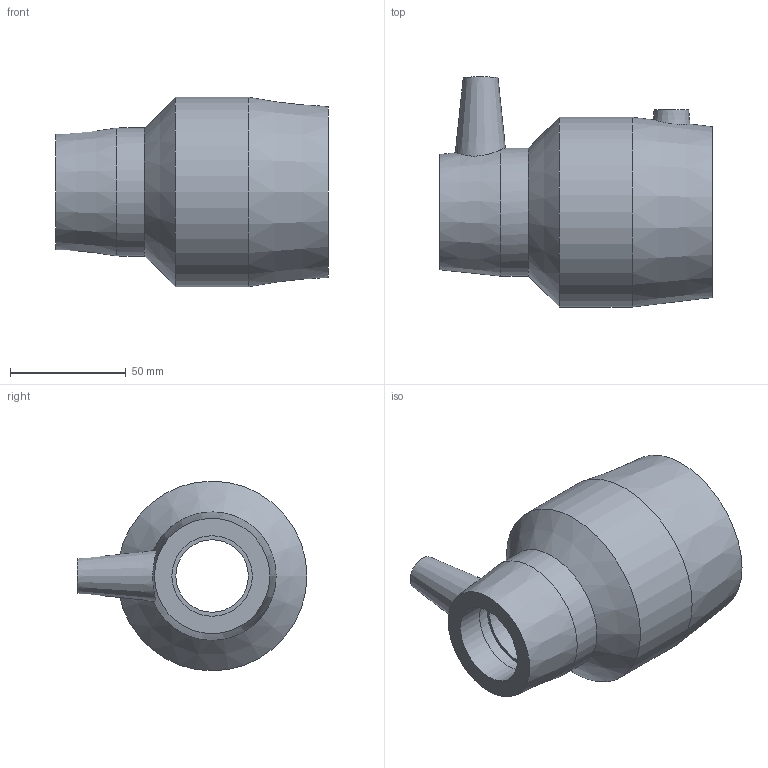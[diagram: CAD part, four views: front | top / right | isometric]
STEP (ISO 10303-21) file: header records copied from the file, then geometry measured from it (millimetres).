
FILE_DESCRIPTION(/* description */ ('PLASSON ASTM REDUCING COUPLER 2''''IPS-1 1/4''''CTS'),/* implementation_level */ '2;1');
FILE_NAME(/* name */ 'C:\Dropbox\KIMPROJECTS-Inventor 2019\99-16-3568-Processing Inch\ASTM ElectroFusion 2021\5911\5911BU03020013.ipt.stp',/* time_stamp */ '2021-08-30T09:50:15+03:00',/* author */ ('KIM'),/* organization */ (''),/* preprocessor_version */ 'ST-DEVELOPER v17.2',/* originating_system */ 'Autodesk Inventor 2019',/* authorisation */ '');
FILE_SCHEMA (('AUTOMOTIVE_DESIGN { 1 0 10303 214 3 1 1 }'));
Length unit declared in the file: inch
Products named in the file (1): 5911BU03020013
Bounding box: 117.86 x 99.44 x 82.04 mm (x, y, z)
Volume: 241989.4 mm3; surface area: 52353.6 mm2
Topology: 1 solids, 1 shells, 32 faces, 81 edges, 58 vertices
Faces by surface type: plane 12, cylinder 11, cone 9
Full cylindrical faces by diameter (mm): 4 x2, 10 x2, 31.32 x1, 34.8 x2, 55.372 x1, 60.1 x2, 82.042 x1
Entity records: 1163 total; most frequent: CARTESIAN_POINT 299, DIRECTION 185, ORIENTED_EDGE 162, AXIS2_PLACEMENT_3D 83, EDGE_CURVE 81, VERTEX_POINT 58, CIRCLE 50, EDGE_LOOP 43
